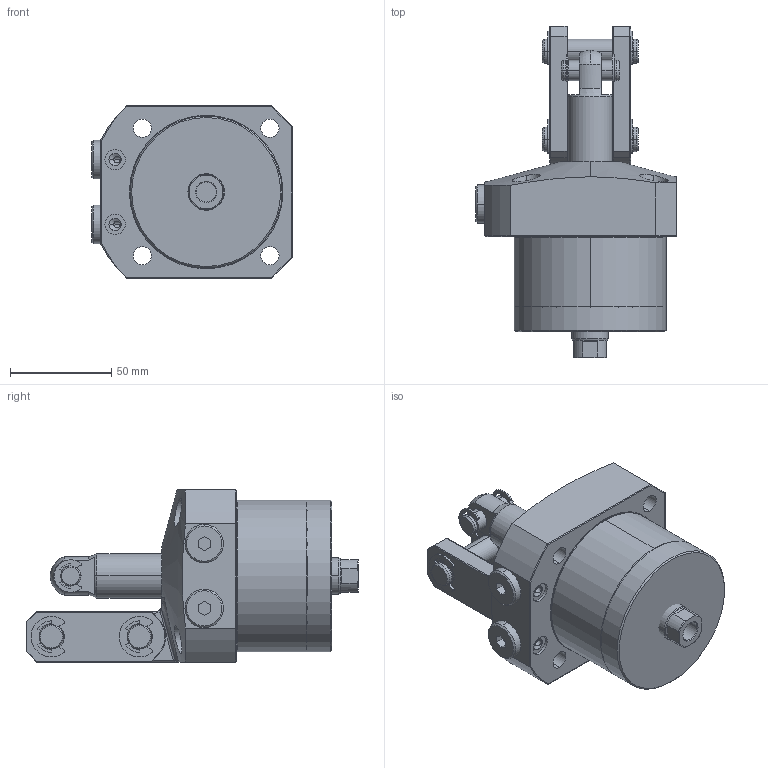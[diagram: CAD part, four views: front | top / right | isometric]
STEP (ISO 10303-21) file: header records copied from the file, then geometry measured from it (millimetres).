
FILE_DESCRIPTION(/* description */ (''),/* implementation_level */ '2;1');
FILE_NAME(/* name */ 'KTPC75-LD.stp',/* time_stamp */ '2022-11-19T08:41:33+08:00',/* author */ (''),/* organization */ (''),/* preprocessor_version */ 'ST-DEVELOPER v16.7',/* originating_system */ 'SIEMENS PLM Software NX 12.0',/* authorisation */ '');
FILE_SCHEMA (('AP203_CONFIGURATION_CONTROLLED_3D_DESIGN_OF_MECHANICAL_PARTS_AND_ASSEMBLIES_MIM_LF { 1 0 10303 403 2 1 2}'));
Length unit declared in the file: millimetre
Products named in the file (10): KTPC75-LD-03; KTPC75-LD-01; KTPC75-LD-07; KTPC75-LD-08; KTPC75-LD-09; KTPC75-LD-06; KTPC75-LD-02; KTPC75-LD-05; KTPC75-LD-04; LKA0750-CLD_step
Assembly tree (16 placements, depth 2):
  LKA0750-CLD_step
    KTPC75-LD-04  x2
    KTPC75-LD-05  x2
    KTPC75-LD-02
    KTPC75-LD-06  x2
    KTPC75-LD-09  x4
    KTPC75-LD-08  x2
    KTPC75-LD-07
    KTPC75-LD-01
    KTPC75-LD-03
Bounding box: 99 x 164 x 85 mm (x, y, z)
Volume: 673050.9 mm3; surface area: 88497.7 mm2
Topology: 16 solids, 16 shells, 558 faces, 1346 edges, 843 vertices
Faces by surface type: cylinder 268, plane 157, torus 66, cone 57, bspline 8, sphere 2
Full cylindrical faces by diameter (mm): 75 x1
Entity records: 12350 total; most frequent: CARTESIAN_POINT 2824, DIRECTION 1821, ORIENTED_EDGE 1648, EDGE_CURVE 824, AXIS2_PLACEMENT_3D 743, VERTEX_POINT 513, EDGE_LOOP 393, CIRCLE 383
